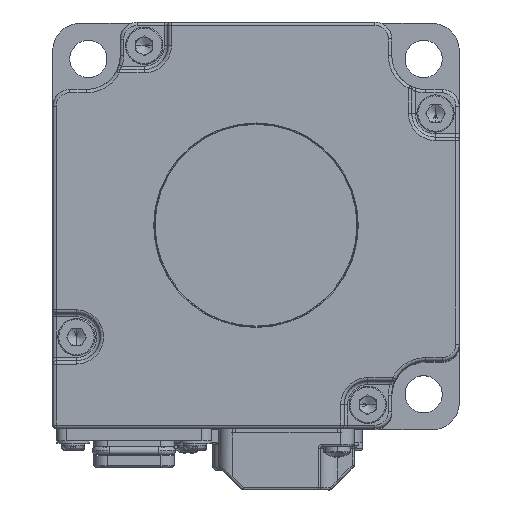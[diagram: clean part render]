
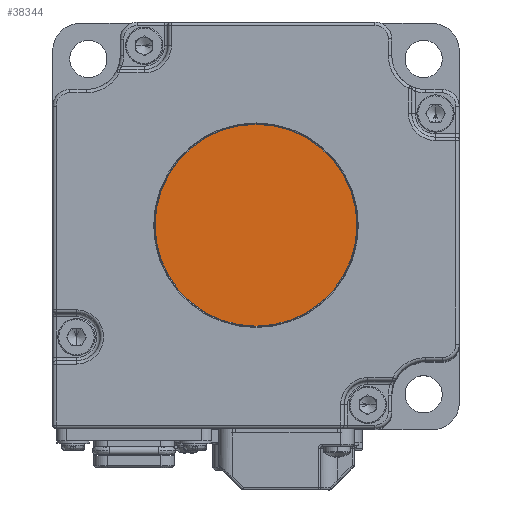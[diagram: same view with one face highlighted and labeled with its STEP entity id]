
A CAD part, top view. The second image highlights one B-rep face of the part: STEP entity #38344.
In plain terms, the highlighted planar face has unit normal (0, 0, 1) as drawn and (0, 0, -1) by its records, which use the part's own axes.
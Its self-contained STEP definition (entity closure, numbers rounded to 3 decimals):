
#1862 = DIRECTION ( 'NONE',  ( 0., 0., -1. ) ) ;
#7011 = AXIS2_PLACEMENT_3D ( 'NONE', #70277, #70792, #94766 ) ;
#27190 = DIRECTION ( 'NONE',  ( -1., 0., 0. ) ) ;
#32019 = EDGE_CURVE ( 'NONE', #46468, #46411, #78670, .T. ) ;
#38344 = ADVANCED_FACE ( 'NONE', ( #54134 ), #58584, .T. ) ;
#44128 = CARTESIAN_POINT ( 'NONE',  ( 14.9, 0., 0.3 ) ) ;
#46411 = VERTEX_POINT ( 'NONE', #125131 ) ;
#46468 = VERTEX_POINT ( 'NONE', #44128 ) ;
#54134 = FACE_OUTER_BOUND ( 'NONE', #145081, .T. ) ;
#58584 = PLANE ( 'NONE',  #7011 ) ;
#63730 = EDGE_CURVE ( 'NONE', #46411, #46468, #130255, .T. ) ;
#65140 = DIRECTION ( 'NONE',  ( 0., 0., -1. ) ) ;
#70277 = CARTESIAN_POINT ( 'NONE',  ( 0., 0., 0.3 ) ) ;
#70792 = DIRECTION ( 'NONE',  ( 0., 0., -1. ) ) ;
#75849 = AXIS2_PLACEMENT_3D ( 'NONE', #100237, #65140, #27190 ) ;
#78670 = CIRCLE ( 'NONE', #109606, 14.9 ) ;
#84663 = ORIENTED_EDGE ( 'NONE', *, *, #63730, .T. ) ;
#94766 = DIRECTION ( 'NONE',  ( -1., 0., 0. ) ) ;
#98384 = CARTESIAN_POINT ( 'NONE',  ( 0., 0., 0.3 ) ) ;
#99950 = DIRECTION ( 'NONE',  ( -1., 0., 0. ) ) ;
#100237 = CARTESIAN_POINT ( 'NONE',  ( 0., 0., 0.3 ) ) ;
#109606 = AXIS2_PLACEMENT_3D ( 'NONE', #98384, #1862, #99950 ) ;
#125131 = CARTESIAN_POINT ( 'NONE',  ( -14.9, 0., 0.3 ) ) ;
#125695 = ORIENTED_EDGE ( 'NONE', *, *, #32019, .T. ) ;
#130255 = CIRCLE ( 'NONE', #75849, 14.9 ) ;
#145081 = EDGE_LOOP ( 'NONE', ( #84663, #125695 ) ) ;
